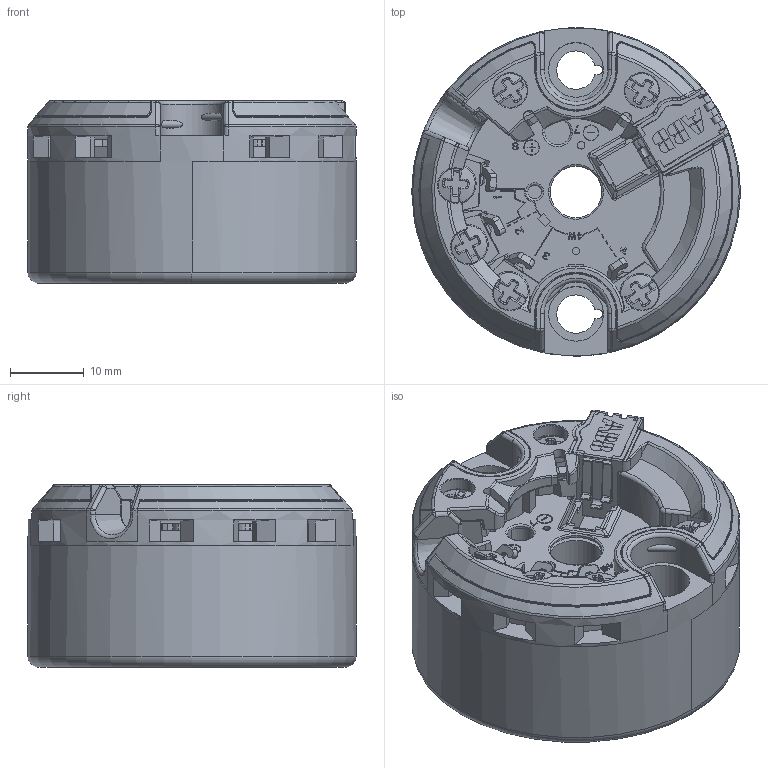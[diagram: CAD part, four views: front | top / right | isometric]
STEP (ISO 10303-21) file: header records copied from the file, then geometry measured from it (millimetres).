
FILE_DESCRIPTION((''),'2;1');
FILE_NAME('TTH200-CUSTOMER','2023-11-03T09:31:05',('DEU214042'),(''),'CREO PARAMETRIC BY PTC INC, 2020281','CREO PARAMETRIC BY PTC INC, 2020281','');
FILE_SCHEMA(('CONFIG_CONTROL_DESIGN'));
Length unit declared in the file: millimetre
Products named in the file (1): TTH200-CUSTOMER
Bounding box: 44.4 x 44.4 x 24.71 mm (x, y, z)
Surface area: 22479 mm2 (no closed solid volume)
Topology: 0 solids, 22 shells, 4397 faces, 11503 edges, 7296 vertices
Faces by surface type: plane 2763, cylinder 848, torus 309, bspline 248, sphere 157, cone 72
Entity records: 145511 total; most frequent: CARTESIAN_POINT 38055, ORIENTED_EDGE 22998, DIRECTION 21419, EDGE_CURVE 11499, VECTOR 8127, LINE 8127, VERTEX_POINT 7294, AXIS2_PLACEMENT_3D 6646
